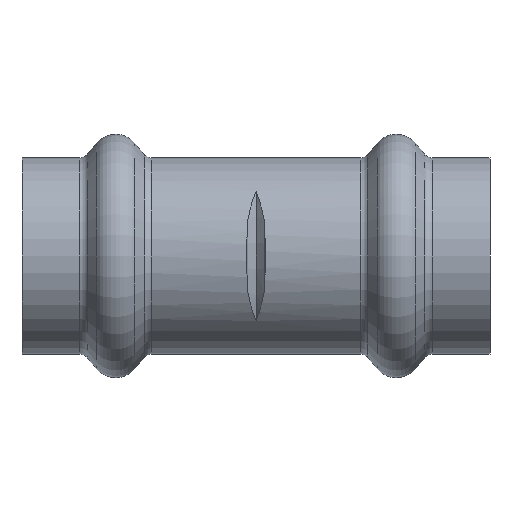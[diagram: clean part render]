
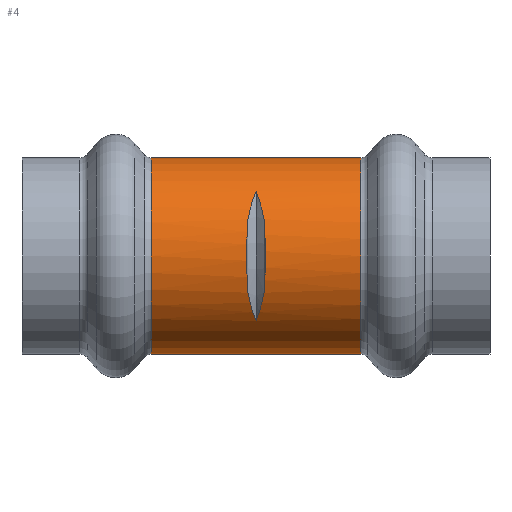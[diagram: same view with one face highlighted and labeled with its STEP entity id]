
A CAD part, front view. The second image highlights one B-rep face of the part: STEP entity #4.
In plain terms, the highlighted cylindrical face has radius 10.5 mm (diameter 21 mm), a partial arc.
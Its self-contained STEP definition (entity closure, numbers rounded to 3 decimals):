
#4 = ADVANCED_FACE ( 'NONE', ( #479, #1253 ), #421, .T. ) ;
#14 = CARTESIAN_POINT ( 'NONE',  ( 0.985, -10.419, 1.346 ) ) ;
#39 = CARTESIAN_POINT ( 'NONE',  ( 0.997, -10.484, 0.677 ) ) ;
#46 = CARTESIAN_POINT ( 'NONE',  ( 0.976, -10.371, 1.677 ) ) ;
#54 = VERTEX_POINT ( 'NONE', #1245 ) ;
#72 = CARTESIAN_POINT ( 'NONE',  ( 0., -7.886, -6.933 ) ) ;
#117 = CARTESIAN_POINT ( 'NONE',  ( 0., -7.886, -6.933 ) ) ;
#129 = CARTESIAN_POINT ( 'NONE',  ( 0.756, -9.512, -4.488 ) ) ;
#158 = ORIENTED_EDGE ( 'NONE', *, *, #562, .T. ) ;
#175 = VECTOR ( 'NONE', #527, 1000. ) ;
#185 = VERTEX_POINT ( 'NONE', #928 ) ;
#191 = B_SPLINE_CURVE_WITH_KNOTS ( 'NONE', 3,
 ( #1390, #1152, #312, #685, #441, #2060 ),
 .UNSPECIFIED., .F., .F.,
 ( 4, 2, 4 ),
 ( 0., 0.002, 0.004 ),
 .UNSPECIFIED. ) ;
#197 = CARTESIAN_POINT ( 'NONE',  ( 1., -10.5, 0.337 ) ) ;
#200 = VERTEX_POINT ( 'NONE', #584 ) ;
#208 = CARTESIAN_POINT ( 'NONE',  ( 1., -10.5, -0.67 ) ) ;
#216 = ORIENTED_EDGE ( 'NONE', *, *, #1432, .F. ) ;
#251 = AXIS2_PLACEMENT_3D ( 'NONE', #1035, #943, #1056 ) ;
#279 = EDGE_LOOP ( 'NONE', ( #216, #158, #1045, #1757 ) ) ;
#306 = B_SPLINE_CURVE_WITH_KNOTS ( 'NONE', 3,
 ( #1893, #1049, #1108, #1163, #1209, #1254 ),
 .UNSPECIFIED., .F., .F.,
 ( 4, 2, 4 ),
 ( 0., 0.002, 0.004 ),
 .UNSPECIFIED. ) ;
#312 = CARTESIAN_POINT ( 'NONE',  ( 0.347, -8.622, 6.021 ) ) ;
#348 = DIRECTION ( 'NONE',  ( -1., 0., 0. ) ) ;
#384 = CARTESIAN_POINT ( 'NONE',  ( 0.988, -10.436, -1.334 ) ) ;
#390 = CARTESIAN_POINT ( 'NONE',  ( 0.941, -10.183, -2.647 ) ) ;
#394 = DIRECTION ( 'NONE',  ( -1., 0., 0. ) ) ;
#410 = CARTESIAN_POINT ( 'NONE',  ( -0.906, -9.991, -3.299 ) ) ;
#415 = DIRECTION ( 'NONE',  ( 0., 0., 1. ) ) ;
#421 = CYLINDRICAL_SURFACE ( 'NONE', #1143, 10.5 ) ;
#431 = CARTESIAN_POINT ( 'NONE',  ( -16.83, 0., 0. ) ) ;
#441 = CARTESIAN_POINT ( 'NONE',  ( 0.756, -9.512, 4.488 ) ) ;
#470 = EDGE_CURVE ( 'NONE', #1352, #1903, #1244, .T. ) ;
#479 = FACE_OUTER_BOUND ( 'NONE', #279, .T. ) ;
#482 = ORIENTED_EDGE ( 'NONE', *, *, #1169, .T. ) ;
#494 = CARTESIAN_POINT ( 'NONE',  ( -0.859, -9.739, -3.925 ) ) ;
#500 = CARTESIAN_POINT ( 'NONE',  ( 0.859, -9.739, -3.925 ) ) ;
#527 = DIRECTION ( 'NONE',  ( -1., 0., 0. ) ) ;
#537 = ORIENTED_EDGE ( 'NONE', *, *, #1415, .T. ) ;
#558 = EDGE_LOOP ( 'NONE', ( #997, #537, #1718, #942, #482, #2079 ) ) ;
#562 = EDGE_CURVE ( 'NONE', #200, #901, #1373, .T. ) ;
#573 = CARTESIAN_POINT ( 'NONE',  ( 0.906, -9.991, -3.299 ) ) ;
#580 = CARTESIAN_POINT ( 'NONE',  ( 0.859, -9.739, -3.925 ) ) ;
#582 = CARTESIAN_POINT ( 'NONE',  ( -16.83, 0., 10.5 ) ) ;
#584 = CARTESIAN_POINT ( 'NONE',  ( 11.189, 0., -10.5 ) ) ;
#653 = CARTESIAN_POINT ( 'NONE',  ( 0.347, -8.622, -6.021 ) ) ;
#676 = CARTESIAN_POINT ( 'NONE',  ( -0.184, -8.273, -6.492 ) ) ;
#685 = CARTESIAN_POINT ( 'NONE',  ( 0.633, -9.241, 5.019 ) ) ;
#692 = CARTESIAN_POINT ( 'NONE',  ( -0.941, -10.18, -2.659 ) ) ;
#700 = CARTESIAN_POINT ( 'NONE',  ( -0.976, -10.371, -1.677 ) ) ;
#710 = CARTESIAN_POINT ( 'NONE',  ( -0.985, -10.419, -1.346 ) ) ;
#715 = CARTESIAN_POINT ( 'NONE',  ( -0.997, -10.484, -0.677 ) ) ;
#723 = CARTESIAN_POINT ( 'NONE',  ( -1., -10.5, -0.337 ) ) ;
#728 = CARTESIAN_POINT ( 'NONE',  ( -1., -10.5, 0.67 ) ) ;
#755 = EDGE_CURVE ( 'NONE', #901, #1413, #1061, .T. ) ;
#764 = CARTESIAN_POINT ( 'NONE',  ( -0.988, -10.436, 1.334 ) ) ;
#770 = EDGE_CURVE ( 'NONE', #1903, #185, #2046, .T. ) ;
#775 = CARTESIAN_POINT ( 'NONE',  ( -0.941, -10.183, 2.647 ) ) ;
#781 = CARTESIAN_POINT ( 'NONE',  ( -0.906, -9.991, 3.299 ) ) ;
#791 = CARTESIAN_POINT ( 'NONE',  ( -0.859, -9.739, 3.925 ) ) ;
#809 = CIRCLE ( 'NONE', #251, 10.5 ) ;
#844 = CARTESIAN_POINT ( 'NONE',  ( 0.184, -8.273, -6.492 ) ) ;
#851 = CARTESIAN_POINT ( 'NONE',  ( 0., -7.886, -6.933 ) ) ;
#901 = VERTEX_POINT ( 'NONE', #1185 ) ;
#928 = CARTESIAN_POINT ( 'NONE',  ( -0.859, -9.739, 3.925 ) ) ;
#933 = CARTESIAN_POINT ( 'NONE',  ( -11.189, 0., -10.5 ) ) ;
#936 = CARTESIAN_POINT ( 'NONE',  ( 0., -7.886, 6.933 ) ) ;
#942 = ORIENTED_EDGE ( 'NONE', *, *, #770, .T. ) ;
#943 = DIRECTION ( 'NONE',  ( 1., 0., 0. ) ) ;
#982 = LINE ( 'NONE', #1595, #1705 ) ;
#997 = ORIENTED_EDGE ( 'NONE', *, *, #1820, .T. ) ;
#1007 = CARTESIAN_POINT ( 'NONE',  ( -0.633, -9.241, -5.019 ) ) ;
#1035 = CARTESIAN_POINT ( 'NONE',  ( -11.189, 0., 0. ) ) ;
#1045 = ORIENTED_EDGE ( 'NONE', *, *, #755, .T. ) ;
#1049 = CARTESIAN_POINT ( 'NONE',  ( -0.756, -9.512, 4.488 ) ) ;
#1056 = DIRECTION ( 'NONE',  ( 0., 0., -1. ) ) ;
#1061 = LINE ( 'NONE', #582, #175 ) ;
#1108 = CARTESIAN_POINT ( 'NONE',  ( -0.633, -9.241, 5.019 ) ) ;
#1130 = VERTEX_POINT ( 'NONE', #936 ) ;
#1137 = EDGE_CURVE ( 'NONE', #1413, #1974, #809, .T. ) ;
#1143 = AXIS2_PLACEMENT_3D ( 'NONE', #431, #394, #415 ) ;
#1152 = CARTESIAN_POINT ( 'NONE',  ( 0.184, -8.273, 6.492 ) ) ;
#1154 = CARTESIAN_POINT ( 'NONE',  ( -0.859, -9.739, -3.925 ) ) ;
#1163 = CARTESIAN_POINT ( 'NONE',  ( -0.347, -8.622, 6.021 ) ) ;
#1169 = EDGE_CURVE ( 'NONE', #185, #1130, #306, .T. ) ;
#1185 = CARTESIAN_POINT ( 'NONE',  ( 11.189, 0., 10.5 ) ) ;
#1209 = CARTESIAN_POINT ( 'NONE',  ( -0.184, -8.273, 6.492 ) ) ;
#1244 = B_SPLINE_CURVE_WITH_KNOTS ( 'NONE', 3,
 ( #851, #676, #1570, #1007, #2040, #1154 ),
 .UNSPECIFIED., .F., .F.,
 ( 4, 2, 4 ),
 ( 0., 0.002, 0.004 ),
 .UNSPECIFIED. ) ;
#1245 = CARTESIAN_POINT ( 'NONE',  ( 0.859, -9.739, -3.925 ) ) ;
#1253 = FACE_BOUND ( 'NONE', #558, .T. ) ;
#1254 = CARTESIAN_POINT ( 'NONE',  ( 0., -7.886, 6.933 ) ) ;
#1329 = CARTESIAN_POINT ( 'NONE',  ( 11.189, 0., 0. ) ) ;
#1334 = VERTEX_POINT ( 'NONE', #1747 ) ;
#1352 = VERTEX_POINT ( 'NONE', #117 ) ;
#1365 = EDGE_CURVE ( 'NONE', #1130, #1334, #191, .T. ) ;
#1367 = CARTESIAN_POINT ( 'NONE',  ( 0.941, -10.18, 2.659 ) ) ;
#1373 = CIRCLE ( 'NONE', #1744, 10.5 ) ;
#1390 = CARTESIAN_POINT ( 'NONE',  ( 0., -7.886, 6.933 ) ) ;
#1413 = VERTEX_POINT ( 'NONE', #1902 ) ;
#1415 = EDGE_CURVE ( 'NONE', #54, #1352, #1638, .T. ) ;
#1432 = EDGE_CURVE ( 'NONE', #200, #1974, #982, .T. ) ;
#1472 = DIRECTION ( 'NONE',  ( 0., 0., 1. ) ) ;
#1570 = CARTESIAN_POINT ( 'NONE',  ( -0.347, -8.622, -6.021 ) ) ;
#1581 = CARTESIAN_POINT ( 'NONE',  ( -0.859, -9.739, -3.925 ) ) ;
#1595 = CARTESIAN_POINT ( 'NONE',  ( -16.83, 0., -10.5 ) ) ;
#1638 = B_SPLINE_CURVE_WITH_KNOTS ( 'NONE', 3,
 ( #500, #129, #1727, #653, #844, #72 ),
 .UNSPECIFIED., .F., .F.,
 ( 4, 2, 4 ),
 ( 0., 0.002, 0.004 ),
 .UNSPECIFIED. ) ;
#1697 = CARTESIAN_POINT ( 'NONE',  ( 0.859, -9.739, 3.925 ) ) ;
#1703 = DIRECTION ( 'NONE',  ( -1., 0., 0. ) ) ;
#1705 = VECTOR ( 'NONE', #1703, 1000. ) ;
#1718 = ORIENTED_EDGE ( 'NONE', *, *, #470, .T. ) ;
#1727 = CARTESIAN_POINT ( 'NONE',  ( 0.633, -9.241, -5.019 ) ) ;
#1744 = AXIS2_PLACEMENT_3D ( 'NONE', #1329, #348, #1472 ) ;
#1747 = CARTESIAN_POINT ( 'NONE',  ( 0.859, -9.739, 3.925 ) ) ;
#1757 = ORIENTED_EDGE ( 'NONE', *, *, #1137, .T. ) ;
#1820 = EDGE_CURVE ( 'NONE', #1334, #54, #1953, .T. ) ;
#1840 = CARTESIAN_POINT ( 'NONE',  ( 0.906, -9.991, 3.299 ) ) ;
#1893 = CARTESIAN_POINT ( 'NONE',  ( -0.859, -9.739, 3.925 ) ) ;
#1902 = CARTESIAN_POINT ( 'NONE',  ( -11.189, 0., 10.5 ) ) ;
#1903 = VERTEX_POINT ( 'NONE', #1581 ) ;
#1953 = B_SPLINE_CURVE_WITH_KNOTS ( 'NONE', 3,
 ( #1697, #1840, #1367, #46, #14, #39, #197, #208, #384, #390, #573, #580 ),
 .UNSPECIFIED., .F., .F.,
 ( 4, 2, 2, 2, 2, 4 ),
 ( 0., 0.002, 0.003, 0.004, 0.006, 0.008 ),
 .UNSPECIFIED. ) ;
#1974 = VERTEX_POINT ( 'NONE', #933 ) ;
#2040 = CARTESIAN_POINT ( 'NONE',  ( -0.756, -9.512, -4.488 ) ) ;
#2046 = B_SPLINE_CURVE_WITH_KNOTS ( 'NONE', 3,
 ( #494, #410, #692, #700, #710, #715, #723, #728, #764, #775, #781, #791 ),
 .UNSPECIFIED., .F., .F.,
 ( 4, 2, 2, 2, 2, 4 ),
 ( 0., 0.002, 0.003, 0.004, 0.006, 0.008 ),
 .UNSPECIFIED. ) ;
#2060 = CARTESIAN_POINT ( 'NONE',  ( 0.859, -9.739, 3.925 ) ) ;
#2079 = ORIENTED_EDGE ( 'NONE', *, *, #1365, .T. ) ;
